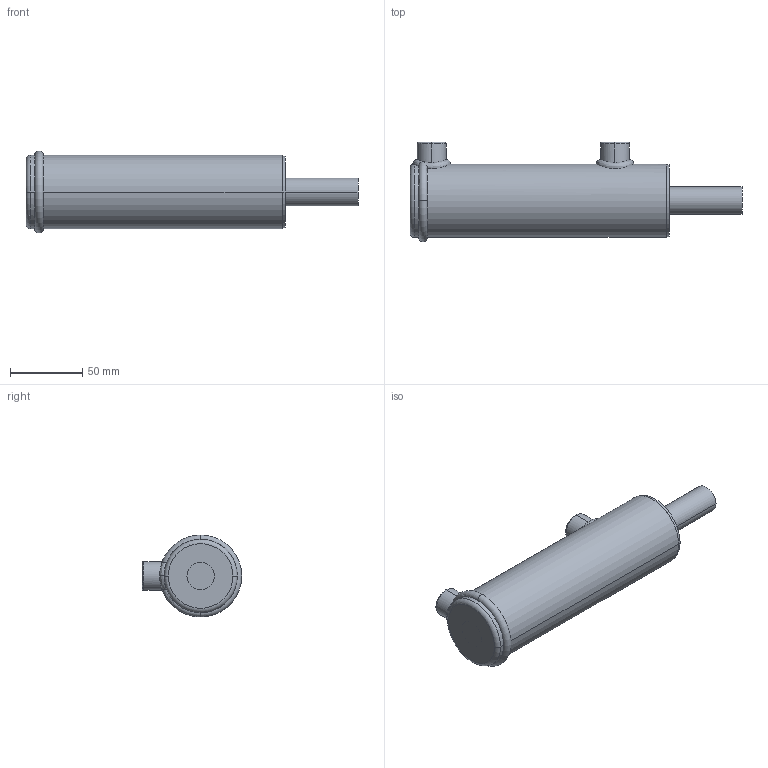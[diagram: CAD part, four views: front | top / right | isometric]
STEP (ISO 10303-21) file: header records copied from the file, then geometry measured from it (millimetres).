
FILE_DESCRIPTION (( 'STEP AP203' ), '1' );
FILE_NAME ('BL150075x102(4).STEP', '2014-11-23T02:06:02', ( '' ), ( '' ), 'SwSTEP 2.0', 'SolidWorks 2014', '' );
FILE_SCHEMA (( 'CONFIG_CONTROL_DESIGN' ));
Length unit declared in the file: millimetre
Products named in the file (1): BL150075x102(4)
Bounding box: 230 x 68.8 x 56.8 mm (x, y, z)
Volume: 331827.1 mm3; surface area: 51579.6 mm2
Topology: 2 solids, 2 shells, 64 faces, 146 edges, 90 vertices
Faces by surface type: cylinder 20, torus 16, plane 12, bspline 8, cone 8
Entity records: 4329 total; most frequent: CARTESIAN_POINT 2883, DIRECTION 288, ORIENTED_EDGE 284, EDGE_CURVE 142, AXIS2_PLACEMENT_3D 130, VERTEX_POINT 90, CIRCLE 73, EDGE_LOOP 72
